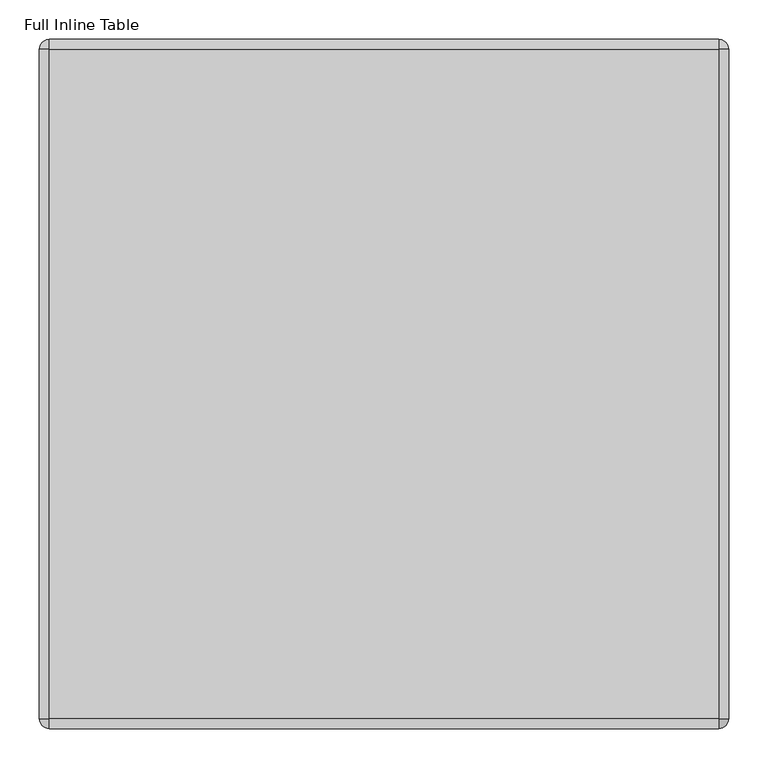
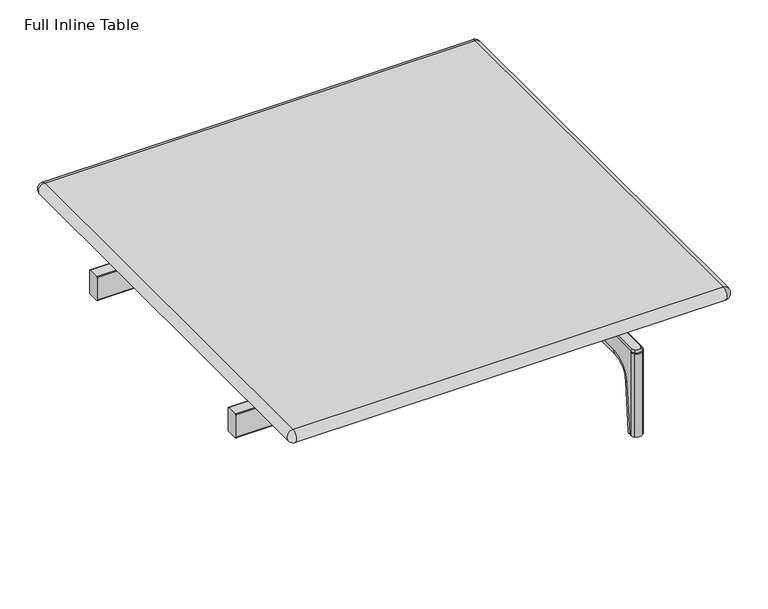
"""IFC4 building model written with IfcOpenShell, lengths in millimetres: furniture geometry, Stylex - NYC - Table : Full Inline Table."""

from ifc_helpers import new_model, si_unit, point, frame, frame_2d, origin, place, context, project, spatial, polyline, circle_curve, ellipse_curve, trimmed, segment, composite_curve, outline, extrude, source, transform, mapped, element, save
from ifc_brep_helpers import plane_surface, cylinder_surface, revolved_surface, advanced_brep


def full_inline_table_4e80720a(model_context):
    return source(origin(), model_context, "Body", "SolidModel", [
        advanced_brep(
        [(277.6202971, -378.0154739, 0.0), (293.8799209, -378.0154739, 0.0), (293.8799209, -378.0154739, 173.4104691), (277.6202971, -378.0154739, 173.4104691), (296.862609, -371.5725657, 0.0), (296.862609, -371.5725657, 173.4104691), (274.637609, -371.5725657, 0.0), (274.637609, -371.5725657, 173.4104691), (274.637609, -371.5725657, 176.5854691), (277.6202971, -378.0154739, 176.5854691), (279.6745844, -375.594621, 179.7604691), (277.812609, -371.5725657, 179.7604691), (293.8799209, -378.0154739, 176.5854691), (291.8256336, -375.594621, 179.7604691), (296.862609, -371.5725657, 176.5854691), (293.687609, -371.5725657, 179.7604691), (293.687609, -262.257522, 179.7604691), (292.100109, -262.257522, 179.7604691), (279.400109, -262.257522, 179.7604691), (277.812609, -262.257522, 179.7604691), (274.637609, 358.8290995, 101.6111748), (274.637609, 311.893435, 144.6197874), (274.637609, -311.893435, 144.6197874), (274.637609, -358.8290995, 101.6111748), (274.637609, -367.7189254, 0.0), (274.637609, -262.257522, 176.5854691), (274.637609, -252.7455757, 185.6119691), (274.637609, -251.0740792, 217.506021), (274.637609, 251.0339077, 217.506021), (274.637609, 252.7054041, 185.6119691), (274.637609, 262.2173504, 176.5854691), (274.637609, 371.5725657, 176.5854691), (274.637609, 371.5725657, 173.4104691), (274.637609, 371.5725657, 0.0), (274.637609, 367.7189254, 0.0), (296.862609, -358.8290995, 101.6111748), (296.862609, -311.893435, 144.6197874), (296.862609, 311.893435, 144.6197874), (296.862609, 358.8290995, 101.6111748), (296.862609, 367.7189254, 0.0), (296.862609, 371.5725657, 0.0), (296.862609, 371.5725657, 173.4104691), (296.862609, 371.5725657, 176.5854691), (296.862609, 262.2173504, 176.5854691), (296.862609, 252.7054041, 185.6119691), (296.862609, 251.0339077, 217.506021), (296.862609, -251.0740792, 217.506021), (296.862609, -252.7455757, 185.6119691), (296.862609, -262.257522, 176.5854691), (296.862609, -367.7189254, 0.0), (280.6630396, -343.3185004, 100.2541732), (280.6630396, -352.089604, 0.0), (290.8371784, -343.3185004, 100.2541732), (290.8371784, -352.089604, 0.0), (280.6630396, -311.893435, 129.0499403), (290.8371784, -311.893435, 129.0499403), (280.6630396, 311.893435, 129.0499403), (290.8371784, 311.893435, 129.0499403), (280.6630396, 343.3185004, 100.2541732), (290.8371784, 343.3185004, 100.2541732), (280.6630396, 352.089604, 0.0), (290.8371784, 352.089604, 0.0), (277.6202971, 378.0154739, 0.0), (293.8799209, 378.0154739, 0.0), (292.100109, -255.9162244, 185.7781358), (279.400109, -255.9162244, 185.7781358), (293.687609, -255.9162244, 185.7781358), (293.687609, -254.0870417, 220.681021), (277.812609, -254.0870417, 220.681021), (277.812609, -255.9162244, 185.7781358), (277.812609, 254.0468702, 220.681021), (293.687609, 254.0468702, 220.681021), (292.100109, 255.8760529, 185.7781358), (279.400109, 255.8760529, 185.7781358), (277.812609, 255.8760529, 185.7781358), (293.687609, 255.8760529, 185.7781358), (292.100109, 262.2173504, 179.7604691), (279.400109, 262.2173504, 179.7604691), (293.687609, 262.2173504, 179.7604691), (293.687609, 371.5725657, 179.7604691), (291.8256336, 375.594621, 179.7604691), (279.6745844, 375.594621, 179.7604691), (277.812609, 371.5725657, 179.7604691), (277.812609, 262.2173504, 179.7604691), (277.6202971, 378.0154739, 173.4104691), (293.8799209, 378.0154739, 173.4104691), (277.6202971, 378.0154739, 176.5854691), (293.8799209, 378.0154739, 176.5854691)],
        [
            (0, 1, circle_curve(frame((285.750109, -368.4349839, 0.0), z_axis=(0.0, 0.0, 1.0), x_axis=(-1.0, 0.0, 0.0)), 12.5650161)),
            (1, 2),
            (2, 3, circle_curve(frame((285.750109, -368.4349839, 173.4104691), z_axis=(0.0, 0.0, -1.0), x_axis=(-1.0, 0.0, 0.0)), 12.5650161)),
            (3, 0),
            (1, 4, circle_curve(frame((288.4125981, -371.5725657, 0.0), z_axis=(0.0, 0.0, 1.0), x_axis=(-1.0, 0.0, 0.0)), 8.4500109)),
            (4, 5),
            (5, 2, circle_curve(frame((288.4125981, -371.5725657, 173.4104691), z_axis=(0.0, 0.0, -1.0), x_axis=(-1.0, 0.0, 0.0)), 8.4500109)),
            (6, 0, circle_curve(frame((283.0876199, -371.5725657, 0.0), z_axis=(0.0, 0.0, 1.0), x_axis=(-1.0, 0.0, 0.0)), 8.4500109)),
            (3, 7, circle_curve(frame((283.0876199, -371.5725657, 173.4104691), z_axis=(0.0, 0.0, -1.0), x_axis=(-1.0, 0.0, 0.0)), 8.4500109)),
            (7, 6),
            (8, 9, circle_curve(frame((283.0876199, -371.5725657, 176.5854691), z_axis=(0.0, 0.0, 1.0), x_axis=(-1.0, 0.0, 0.0)), 8.4500109)),
            (9, 10, circle_curve(frame((279.6745844, -375.594621, 176.5854691), z_axis=(-0.7624733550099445, 0.647019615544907, 0.0), x_axis=(0.647019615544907, 0.7624733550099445, 0.0)), 3.175)),
            (10, 11, circle_curve(frame((283.0876199, -371.5725657, 179.7604691), z_axis=(0.0, 0.0, -1.0), x_axis=(-1.0, 0.0, 0.0)), 5.2750109)),
            (11, 8, circle_curve(frame((277.812609, -371.5725657, 176.5854691), z_axis=(0.0, -1.0, 0.0), x_axis=(1.0, 0.0, 0.0)), 3.175)),
            (8, 7),
            (3, 9),
            (9, 12, circle_curve(frame((285.750109, -368.4349839, 176.5854691), z_axis=(0.0, 0.0, 1.0), x_axis=(-0.6470196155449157, -0.762473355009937, 0.0)), 12.5650161)),
            (12, 13, circle_curve(frame((291.8256336, -375.594621, 176.5854691), z_axis=(-0.7624733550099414, -0.6470196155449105, 0.0), x_axis=(-0.6470196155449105, 0.7624733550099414, 0.0)), 3.175)),
            (13, 10, circle_curve(frame((285.750109, -368.4349839, 179.7604691), z_axis=(0.0, 0.0, -1.0), x_axis=(-0.6470196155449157, -0.762473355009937, 0.0)), 9.3900161)),
            (2, 12),
            (12, 14, circle_curve(frame((288.4125981, -371.5725657, 176.5854691), z_axis=(0.0, 0.0, 1.0), x_axis=(0.6470196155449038, -0.7624733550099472, 0.0)), 8.4500109)),
            (14, 15, circle_curve(frame((293.687609, -371.5725657, 176.5854691), z_axis=(0.0, -1.0, 0.0), x_axis=(-1.0, 0.0, 0.0)), 3.175)),
            (15, 13, circle_curve(frame((288.4125981, -371.5725657, 179.7604691), z_axis=(0.0, 0.0, -1.0), x_axis=(0.6470196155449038, -0.7624733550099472, 0.0)), 5.2750109)),
            (5, 14),
            (15, 16),
            (16, 17),
            (17, 18),
            (18, 19),
            (19, 11),
            (20, 21, circle_curve(frame((274.637609, 311.893435, 97.5048362), z_axis=(1.0, 0.0, 0.0), x_axis=(0.0, 0.0, 1.0)), 47.1149511)),
            (21, 22),
            (22, 23, circle_curve(frame((274.637609, -311.893435, 97.5048362), z_axis=(1.0, 0.0, 0.0), x_axis=(0.0, -0.9961946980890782, 0.08715574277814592)), 47.1149511)),
            (23, 24),
            (24, 6),
            (8, 25),
            (25, 26, circle_curve(frame((274.637609, -262.257522, 186.1104691), z_axis=(1.0, 0.0, 0.0), x_axis=(0.0, 0.9986295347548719, -0.0523359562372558)), 9.525)),
            (26, 27),
            (27, 28),
            (28, 29),
            (29, 30, circle_curve(frame((274.637609, 262.2173504, 186.1104691), z_axis=(1.0, 0.0, 0.0), x_axis=(0.0, 0.0, -1.0)), 9.525)),
            (30, 31),
            (31, 32),
            (32, 33),
            (33, 34),
            (34, 20),
            (35, 36, circle_curve(frame((296.862609, -311.893435, 97.5048362), z_axis=(-1.0, 0.0, 0.0), x_axis=(0.0, -0.9961946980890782, 0.08715574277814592)), 47.1149511)),
            (36, 37),
            (37, 38, circle_curve(frame((296.862609, 311.893435, 97.5048362), z_axis=(-1.0, 0.0, 0.0), x_axis=(0.0, 0.0, 1.0)), 47.1149511)),
            (38, 39),
            (39, 40),
            (40, 41),
            (41, 42),
            (42, 43),
            (43, 44, circle_curve(frame((296.862609, 262.2173504, 186.1104691), z_axis=(-1.0, 0.0, 0.0), x_axis=(0.0, -0.9986295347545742, -0.05233595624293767)), 9.525)),
            (44, 45),
            (45, 46),
            (46, 47),
            (47, 48, circle_curve(frame((296.862609, -262.257522, 186.1104691), z_axis=(-1.0, 0.0, 0.0), x_axis=(0.0, 0.0, -1.0)), 9.525)),
            (48, 14),
            (4, 49),
            (49, 35),
            (23, 50, circle_curve(frame((297.7667405, -358.8290995, 101.6111748), z_axis=(0.0, -0.08715574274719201, -0.9961946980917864), x_axis=(1.0, 0.0, 0.0)), 23.1291315)),
            (50, 51),
            (51, 24, ellipse_curve(frame((297.7667405, -367.7189254, 0.0), z_axis=(0.0, 0.0, 1.0), x_axis=(0.0, -1.0, 0.0)), 23.217481, 23.1291315)),
            (50, 52, circle_curve(frame((285.750109, -347.9317414, 100.6577795), z_axis=(0.0, -0.08715574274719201, -0.9961946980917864), x_axis=(-1.0, 0.0, 0.0)), 6.8791835)),
            (52, 53),
            (53, 51, ellipse_curve(frame((285.750109, -356.738156, 0.0), z_axis=(0.0, 0.0, 1.0), x_axis=(0.0, -1.0, 0.0)), 6.9054609, 6.8791835)),
            (52, 35, circle_curve(frame((273.7334775, -358.8290995, 101.6111748), z_axis=(0.0, -0.08715574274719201, -0.9961946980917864), x_axis=(-1.0, 0.0, 0.0)), 23.1291315)),
            (49, 53, ellipse_curve(frame((273.7334775, -367.7189254, 0.0), z_axis=(0.0, 0.0, 1.0), x_axis=(0.0, -1.0, 0.0)), 23.217481, 23.1291315)),
            (22, 54, circle_curve(frame((297.7667405, -311.893435, 144.6197874), z_axis=(0.0, -1.0, 0.0), x_axis=(1.0, 0.0, 0.0)), 23.1291315)),
            (54, 50, circle_curve(frame((280.6630396, -311.893435, 97.5048362), z_axis=(1.0, 0.0, 0.0), x_axis=(0.0, -0.9961946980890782, 0.08715574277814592)), 31.545104)),
            (54, 55, circle_curve(frame((285.750109, -311.893435, 133.6808031), z_axis=(0.0, -1.0, 0.0), x_axis=(-1.0, 0.0, 0.0)), 6.8791835)),
            (55, 52, circle_curve(frame((290.8371784, -311.893435, 97.5048362), z_axis=(1.0, 0.0, 0.0), x_axis=(0.0, -0.9961946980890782, 0.08715574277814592)), 31.545104)),
            (55, 36, circle_curve(frame((273.7334775, -311.893435, 144.6197874), z_axis=(0.0, -1.0, 0.0), x_axis=(-1.0, 0.0, 0.0)), 23.1291315)),
            (21, 56, circle_curve(frame((297.7667405, 311.893435, 144.6197874), z_axis=(0.0, -1.0, 0.0), x_axis=(1.0, 0.0, 0.0)), 23.1291315)),
            (56, 54),
            (56, 57, circle_curve(frame((285.750109, 311.893435, 133.6808031), z_axis=(0.0, -1.0, 0.0), x_axis=(-1.0, 0.0, 0.0)), 6.8791835)),
            (57, 55),
            (57, 37, circle_curve(frame((273.7334775, 311.893435, 144.6197874), z_axis=(0.0, -1.0, 0.0), x_axis=(-1.0, 0.0, 0.0)), 23.1291315)),
            (20, 58, circle_curve(frame((297.7667405, 358.8290995, 101.6111748), z_axis=(0.0, -0.0871557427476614, 0.9961946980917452), x_axis=(1.0, 0.0, 0.0)), 23.1291315)),
            (58, 56, circle_curve(frame((280.6630396, 311.893435, 97.5048362), z_axis=(1.0, 0.0, 0.0), x_axis=(0.0, 0.0, 1.0)), 31.545104)),
            (58, 59, circle_curve(frame((285.750109, 347.9317414, 100.6577795), z_axis=(0.0, -0.08715574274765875, 0.9961946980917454), x_axis=(-1.0, 0.0, 0.0)), 6.8791835)),
            (59, 57, circle_curve(frame((290.8371784, 311.893435, 97.5048362), z_axis=(1.0, 0.0, 0.0), x_axis=(0.0, 0.0, 1.0)), 31.545104)),
            (59, 38, circle_curve(frame((273.7334775, 358.8290995, 101.6111748), z_axis=(0.0, -0.08715574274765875, 0.9961946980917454), x_axis=(-1.0, 0.0, 0.0)), 23.1291315)),
            (34, 60, ellipse_curve(frame((297.7667405, 367.7189254, 0.0), z_axis=(0.0, 0.0, 1.0), x_axis=(0.0, -1.0, 0.0)), 23.217481, 23.1291315)),
            (60, 58),
            (60, 61, ellipse_curve(frame((285.750109, 356.738156, 0.0), z_axis=(0.0, 0.0, 1.0), x_axis=(0.0, -1.0, 0.0)), 6.9054609, 6.8791835)),
            (61, 59),
            (61, 39, ellipse_curve(frame((273.7334775, 367.7189254, 0.0), z_axis=(0.0, 0.0, 1.0), x_axis=(0.0, -1.0, 0.0)), 23.217481, 23.1291315)),
            (33, 62, circle_curve(frame((283.0876199, 371.5725657, 0.0), z_axis=(0.0, 0.0, -1.0), x_axis=(-1.0, 0.0, 0.0)), 8.4500109)),
            (62, 63, circle_curve(frame((285.750109, 368.4349839, 0.0), z_axis=(0.0, 0.0, -1.0), x_axis=(-1.0, 0.0, 0.0)), 12.5650161)),
            (63, 40, circle_curve(frame((288.4125981, 371.5725657, 0.0), z_axis=(0.0, 0.0, -1.0), x_axis=(-1.0, 0.0, 0.0)), 8.4500109)),
            (17, 64, circle_curve(frame((292.100109, -262.257522, 186.1104691), z_axis=(1.0, 0.0, 0.0), x_axis=(0.0, -1.0, 0.0)), 6.35)),
            (64, 65),
            (65, 18, circle_curve(frame((279.400109, -262.257522, 186.1104691), z_axis=(-1.0, 0.0, 0.0), x_axis=(0.0, -1.0, 0.0)), 6.35)),
            (64, 66),
            (66, 67),
            (67, 68),
            (68, 69),
            (69, 65),
            (70, 68),
            (67, 71),
            (71, 70),
            (72, 73),
            (73, 74),
            (74, 70),
            (71, 75),
            (75, 72),
            (72, 76, circle_curve(frame((292.100109, 262.2173504, 186.1104691), z_axis=(1.0, 0.0, 0.0), x_axis=(0.0, -1.0, 0.0)), 6.35)),
            (76, 77),
            (77, 73, circle_curve(frame((279.400109, 262.2173504, 186.1104691), z_axis=(-1.0, 0.0, 0.0), x_axis=(0.0, -1.0, 0.0)), 6.35)),
            (76, 78),
            (78, 79),
            (79, 80, circle_curve(frame((288.4125981, 371.5725657, 179.7604691), z_axis=(0.0, 0.0, 1.0), x_axis=(0.6470196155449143, 0.7624733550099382, 0.0)), 5.2750109)),
            (80, 81, circle_curve(frame((285.750109, 368.4349839, 179.7604691), z_axis=(0.0, 0.0, 1.0), x_axis=(-0.6470196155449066, 0.7624733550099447, 0.0)), 9.3900161)),
            (81, 82, circle_curve(frame((283.0876199, 371.5725657, 179.7604691), z_axis=(0.0, 0.0, 1.0), x_axis=(-1.0, 0.0, 0.0)), 5.2750109)),
            (82, 83),
            (83, 77),
            (62, 84),
            (84, 85, circle_curve(frame((285.750109, 368.4349839, 173.4104691), z_axis=(0.0, 0.0, -1.0), x_axis=(-1.0, 0.0, 0.0)), 12.5650161)),
            (85, 63),
            (85, 41, circle_curve(frame((288.4125981, 371.5725657, 173.4104691), z_axis=(0.0, 0.0, -1.0), x_axis=(-1.0, 0.0, 0.0)), 8.4500109)),
            (32, 84, circle_curve(frame((283.0876199, 371.5725657, 173.4104691), z_axis=(0.0, 0.0, -1.0), x_axis=(-1.0, 0.0, 0.0)), 8.4500109)),
            (86, 31, circle_curve(frame((283.0876199, 371.5725657, 176.5854691), z_axis=(0.0, 0.0, 1.0), x_axis=(-1.0, 0.0, 0.0)), 8.4500109)),
            (31, 82, circle_curve(frame((277.812609, 371.5725657, 176.5854691), z_axis=(0.0, 1.0, 0.0), x_axis=(-1.0, 0.0, 0.0)), 3.175)),
            (81, 86, circle_curve(frame((279.6745844, 375.594621, 176.5854691), z_axis=(-0.7624733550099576, -0.6470196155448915, 0.0), x_axis=(-0.6470196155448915, 0.7624733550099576, 0.0)), 3.175)),
            (86, 84),
            (80, 87, circle_curve(frame((291.8256336, 375.594621, 176.5854691), z_axis=(-0.762473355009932, 0.6470196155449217, 0.0), x_axis=(0.6470196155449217, 0.762473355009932, 0.0)), 3.175)),
            (87, 86, circle_curve(frame((285.750109, 368.4349839, 176.5854691), z_axis=(0.0, 0.0, 1.0), x_axis=(-0.6470196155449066, 0.7624733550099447, 0.0)), 12.5650161)),
            (87, 85),
            (79, 42, circle_curve(frame((293.687609, 371.5725657, 176.5854691), z_axis=(0.0, 1.0, 0.0), x_axis=(1.0, 0.0, 0.0)), 3.175)),
            (42, 87, circle_curve(frame((288.4125981, 371.5725657, 176.5854691), z_axis=(0.0, 0.0, 1.0), x_axis=(0.6470196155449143, 0.7624733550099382, 0.0)), 8.4500109)),
            (30, 83, circle_curve(frame((277.812609, 262.2173504, 176.5854691), z_axis=(0.0, 1.0, 0.0), x_axis=(0.0, 0.0, 1.0)), 3.175)),
            (29, 74, circle_curve(frame((277.812609, 252.7054041, 185.6119691), z_axis=(0.0, 0.05233595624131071, -0.9986295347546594), x_axis=(0.0, 0.9986295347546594, 0.05233595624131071)), 3.175)),
            (74, 83, circle_curve(frame((277.812609, 262.2173504, 186.1104691), z_axis=(1.0, 0.0, 0.0), x_axis=(0.0, 0.0, -1.0)), 6.35)),
            (28, 70, ellipse_curve(frame((277.812609, 251.0339077, 217.506021), z_axis=(0.0, 0.7253743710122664, -0.6883545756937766), x_axis=(0.0, -0.6883545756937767, -0.725374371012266)), 4.3770502, 3.175)),
            (27, 68, ellipse_curve(frame((277.812609, -251.0740792, 217.506021), z_axis=(0.0, 0.7253743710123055, 0.6883545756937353), x_axis=(0.0, 0.688354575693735, -0.7253743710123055)), 4.3770502, 3.175)),
            (19, 25, circle_curve(frame((277.812609, -262.257522, 176.5854691), z_axis=(0.0, -1.0, 0.0), x_axis=(0.0, 0.0, 1.0)), 3.175)),
            (48, 16, circle_curve(frame((293.687609, -262.257522, 176.5854691), z_axis=(0.0, -1.0, 0.0), x_axis=(0.0, 0.0, 1.0)), 3.175)),
            (45, 71, ellipse_curve(frame((293.687609, 251.0339077, 217.506021), z_axis=(0.0, -0.7253743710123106, 0.6883545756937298), x_axis=(0.0, -0.6883545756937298, -0.7253743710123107)), 4.3770502, 3.175)),
            (67, 46, ellipse_curve(frame((293.687609, -251.0740792, 217.506021), z_axis=(0.0, 0.7253743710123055, 0.688354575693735), x_axis=(0.0, -0.6883545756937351, 0.7253743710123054)), 4.3770502, 3.175)),
            (78, 43, circle_curve(frame((293.687609, 262.2173504, 176.5854691), z_axis=(0.0, 1.0, 0.0), x_axis=(0.0, 0.0, 1.0)), 3.175)),
            (26, 69, circle_curve(frame((277.812609, -252.7455757, 185.6119691), z_axis=(0.0, 0.05233595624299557, 0.9986295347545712), x_axis=(0.0, -0.9986295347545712, 0.05233595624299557)), 3.175)),
            (19, 69, circle_curve(frame((277.812609, -262.257522, 186.1104691), z_axis=(1.0, 0.0, 0.0), x_axis=(0.0, 0.9986295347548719, -0.0523359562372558)), 6.35)),
            (16, 66, circle_curve(frame((293.687609, -262.257522, 186.1104691), z_axis=(1.0, 0.0, 0.0), x_axis=(0.0, 0.0, -1.0)), 6.35)),
            (47, 66, circle_curve(frame((293.687609, -252.7455757, 185.6119691), z_axis=(0.0, -0.05233595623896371, -0.9986295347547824), x_axis=(0.0, -0.9986295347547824, 0.05233595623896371)), 3.175)),
            (44, 75, circle_curve(frame((293.687609, 252.7054041, 185.6119691), z_axis=(0.0, -0.052335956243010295, 0.9986295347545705), x_axis=(0.0, 0.9986295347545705, 0.052335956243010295)), 3.175)),
            (75, 78, circle_curve(frame((293.687609, 262.2173504, 186.1104691), z_axis=(1.0, 0.0, 0.0), x_axis=(0.0, -0.9986295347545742, -0.05233595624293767)), 6.35)),
        ],
        [
            cylinder_surface(frame((285.750109, -368.4349839, 0.0), z_axis=(0.0, 0.0, 1.0), x_axis=(-1.0, 0.0, 0.0)), 12.5650161),
            cylinder_surface(frame((288.4125981, -371.5725657, 0.0), z_axis=(0.0, 0.0, 1.0), x_axis=(-1.0, 0.0, 0.0)), 8.4500109),
            cylinder_surface(frame((283.0876199, -371.5725657, 0.0), z_axis=(0.0, 0.0, 1.0), x_axis=(-1.0, 0.0, 0.0)), 8.4500109),
            revolved_surface(trimmed(ellipse_curve(frame((277.812609, -371.5725657, 176.5854691), z_axis=(0.0, 1.0, 0.0), x_axis=(1.0, 0.0, 0.0)), 3.175, 3.175), [point((274.637609, -371.5725657, 176.5854691))], [point((277.812609, -371.5725657, 179.7604691))], True, "CARTESIAN"), (283.0876199, -371.5725657, 0.0), (0.0, 0.0, 1.0)),
            revolved_surface(trimmed(ellipse_curve(frame((279.6745844, -375.594621, 176.5854691), z_axis=(-0.7624733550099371, 0.6470196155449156, 0.0), x_axis=(0.6470196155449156, 0.7624733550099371, 0.0)), 3.175, 3.175), [point((277.6202971, -378.0154739, 176.5854691))], [point((279.6745844, -375.594621, 179.7604691))], True, "CARTESIAN"), (285.750109, -368.4349839, 0.0), (0.0, 0.0, 1.0)),
            cylinder_surface(frame((285.750109, -368.4349839, 0.0), z_axis=(0.0, 0.0, 1.0), x_axis=(-0.6470196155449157, -0.762473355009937, 0.0)), 12.5650161),
            revolved_surface(trimmed(ellipse_curve(frame((291.8256336, -375.594621, 176.5854691), z_axis=(-0.762473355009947, -0.6470196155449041, 0.0), x_axis=(-0.6470196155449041, 0.762473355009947, 0.0)), 3.175, 3.175), [point((293.8799209, -378.0154739, 176.5854691))], [point((291.8256336, -375.594621, 179.7604691))], True, "CARTESIAN"), (288.4125981, -371.5725657, 0.0), (0.0, 0.0, 1.0)),
            cylinder_surface(frame((288.4125981, -371.5725657, 0.0), z_axis=(0.0, 0.0, 1.0), x_axis=(0.6470196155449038, -0.7624733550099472, 0.0)), 8.4500109),
            plane_surface(frame((292.100109, -358.3895248, 179.7604691), z_axis=(0.0, 0.0, 1.0), x_axis=(0.0, 1.0, 0.0))),
            plane_surface(frame((274.637609, -372.2795024, -8.0803238), z_axis=(-1.0, 1.165009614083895e-12, 0.0), x_axis=(0.0, 0.08715574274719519, 0.9961946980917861))),
            plane_surface(frame((296.862609, -368.4551348, -8.4149126), z_axis=(1.0, 0.0, 0.0), x_axis=(0.0, 0.08715574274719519, 0.9961946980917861))),
            cylinder_surface(frame((297.7667405, -368.4551348, -8.4149126), z_axis=(0.0, -0.08715574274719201, -0.9961946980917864), x_axis=(1.0, 0.0, 0.0)), 23.1291315),
            cylinder_surface(frame((285.750109, -357.5577767, -9.3683079), z_axis=(0.0, -0.08715574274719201, -0.9961946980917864), x_axis=(-1.0, 0.0, 0.0)), 6.8791835),
            cylinder_surface(frame((273.7334775, -368.4551348, -8.4149126), z_axis=(0.0, -0.08715574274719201, -0.9961946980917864), x_axis=(-1.0, 0.0, 0.0)), 23.1291315),
            revolved_surface(trimmed(ellipse_curve(frame((297.7667405, -358.8290995, 101.6111748), z_axis=(0.0, -0.08715574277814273, -0.9961946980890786), x_axis=(1.0, 0.0, 0.0)), 23.1291315, 23.1291315), [point((274.637609, -358.8290995, 101.6111748))], [point((280.6630396, -343.3185004, 100.2541732))], True, "CARTESIAN"), (285.750109, -311.893435, 97.5048362), (-1.0, 0.0, 0.0)),
            revolved_surface(trimmed(ellipse_curve(frame((285.750109, -347.9317414, 100.6577795), z_axis=(0.0, -0.08715574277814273, -0.9961946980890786), x_axis=(-1.0, 0.0, 0.0)), 6.8791835, 6.8791835), [point((280.6630396, -343.3185004, 100.2541732))], [point((290.8371784, -343.3185004, 100.2541732))], True, "CARTESIAN"), (285.750109, -311.893435, 97.5048362), (-1.0, 0.0, 0.0)),
            revolved_surface(trimmed(ellipse_curve(frame((273.7334775, -358.8290995, 101.6111748), z_axis=(0.0, -0.08715574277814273, -0.9961946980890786), x_axis=(-1.0, 0.0, 0.0)), 23.1291315, 23.1291315), [point((290.8371784, -343.3185004, 100.2541732))], [point((296.862609, -358.8290995, 101.6111748))], True, "CARTESIAN"), (285.750109, -311.893435, 97.5048362), (-1.0, 0.0, 0.0)),
            cylinder_surface(frame((297.7667405, -311.893435, 144.6197874), z_axis=(0.0, -1.0, 0.0), x_axis=(1.0, 0.0, 0.0)), 23.1291315),
            cylinder_surface(frame((285.750109, -311.893435, 133.6808031), z_axis=(0.0, -1.0, 0.0), x_axis=(-1.0, 0.0, 0.0)), 6.8791835),
            cylinder_surface(frame((273.7334775, -311.893435, 144.6197874), z_axis=(0.0, -1.0, 0.0), x_axis=(-1.0, 0.0, 0.0)), 23.1291315),
            revolved_surface(trimmed(ellipse_curve(frame((297.7667405, 311.893435, 144.6197874), z_axis=(0.0, -1.0, 0.0), x_axis=(1.0, 0.0, 0.0)), 23.1291315, 23.1291315), [point((274.637609, 311.893435, 144.6197874))], [point((280.6630396, 311.893435, 129.0499403))], True, "CARTESIAN"), (285.750109, 311.893435, 97.5048362), (-1.0, 0.0, 0.0)),
            revolved_surface(trimmed(ellipse_curve(frame((285.750109, 311.893435, 133.6808031), z_axis=(0.0, -1.0, 0.0), x_axis=(-1.0, 0.0, 0.0)), 6.8791835, 6.8791835), [point((280.6630396, 311.893435, 129.0499403))], [point((290.8371784, 311.893435, 129.0499403))], True, "CARTESIAN"), (285.750109, 311.893435, 97.5048362), (-1.0, 0.0, 0.0)),
            revolved_surface(trimmed(ellipse_curve(frame((273.7334775, 311.893435, 144.6197874), z_axis=(0.0, -1.0, 0.0), x_axis=(-1.0, 0.0, 0.0)), 23.1291315, 23.1291315), [point((290.8371784, 311.893435, 129.0499403))], [point((296.862609, 311.893435, 144.6197874))], True, "CARTESIAN"), (285.750109, 311.893435, 97.5048362), (-1.0, 0.0, 0.0)),
            cylinder_surface(frame((297.7667405, 358.8290995, 101.6111748), z_axis=(0.0, -0.0871557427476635, 0.9961946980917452), x_axis=(1.0, 0.0, 0.0)), 23.1291315),
            cylinder_surface(frame((285.750109, 347.9317414, 100.6577795), z_axis=(0.0, -0.0871557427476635, 0.9961946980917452), x_axis=(-1.0, 0.0, 0.0)), 6.8791835),
            cylinder_surface(frame((273.7334775, 358.8290995, 101.6111748), z_axis=(0.0, -0.0871557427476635, 0.9961946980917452), x_axis=(-1.0, 0.0, 0.0)), 23.1291315),
            plane_surface(frame((258.7372881, -410.528822, 0.0), z_axis=(0.0, 0.0, -1.0), x_axis=(1.0, 0.0, 0.0))),
            revolved_surface(polyline([(292.100109, -268.607522, 186.1104691), (279.400109, -268.607522, 186.1104691)]), (292.100109, -262.257522, 186.1104691), (1.0, 0.0, 0.0)),
            plane_surface(frame((279.400109, -255.9162244, 185.7781358), z_axis=(0.0, -0.9986295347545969, 0.052335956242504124), x_axis=(1.0, 0.0, 0.0))),
            plane_surface(frame((279.400109, -254.0870417, 220.681021), z_axis=(0.0, 0.0, 1.0), x_axis=(1.0, 0.0, 0.0))),
            plane_surface(frame((279.400109, 254.0468702, 220.681021), z_axis=(0.0, 0.9986295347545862, 0.05233595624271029), x_axis=(1.0, 0.0, 0.0))),
            revolved_surface(polyline([(292.100109, 255.8673504, 186.1104691), (279.400109, 255.8673504, 186.1104691)]), (292.100109, 262.2173504, 186.1104691), (1.0, 0.0, 0.0)),
            plane_surface(frame((279.400109, 262.2173504, 179.7604691), z_axis=(0.0, 0.0, 1.0), x_axis=(1.0, 0.0, 0.0))),
            cylinder_surface(frame((285.750109, 368.4349839, 0.0), z_axis=(0.0, 0.0, 1.0), x_axis=(-1.0, 0.0, 0.0)), 12.5650161),
            cylinder_surface(frame((288.4125981, 371.5725657, 0.0), z_axis=(0.0, 0.0, 1.0), x_axis=(-1.0, 0.0, 0.0)), 8.4500109),
            cylinder_surface(frame((283.0876199, 371.5725657, 0.0), z_axis=(0.0, 0.0, 1.0), x_axis=(-1.0, 0.0, 0.0)), 8.4500109),
            revolved_surface(trimmed(ellipse_curve(frame((277.812609, 371.5725657, 176.5854691), z_axis=(0.0, -1.0, 0.0), x_axis=(-1.0, 0.0, 0.0)), 3.175, 3.175), [point((277.812609, 371.5725657, 179.7604691))], [point((274.637609, 371.5725657, 176.5854691))], True, "CARTESIAN"), (283.0876199, 371.5725657, 0.0), (0.0, 0.0, -1.0)),
            cylinder_surface(frame((283.0876199, 371.5725657, 0.0), z_axis=(0.0, 0.0, -1.0), x_axis=(-1.0, 0.0, 0.0)), 8.4500109),
            revolved_surface(trimmed(ellipse_curve(frame((279.6745844, 375.594621, 176.5854691), z_axis=(-0.7624733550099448, -0.6470196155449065, 0.0), x_axis=(-0.6470196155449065, 0.7624733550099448, 0.0)), 3.175, 3.175), [point((279.6745844, 375.594621, 179.7604691))], [point((277.6202971, 378.0154739, 176.5854691))], True, "CARTESIAN"), (285.750109, 368.4349839, 0.0), (0.0, 0.0, -1.0)),
            cylinder_surface(frame((285.750109, 368.4349839, 0.0), z_axis=(0.0, 0.0, -1.0), x_axis=(-0.6470196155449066, 0.7624733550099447, 0.0)), 12.5650161),
            revolved_surface(trimmed(ellipse_curve(frame((291.8256336, 375.594621, 176.5854691), z_axis=(-0.7624733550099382, 0.6470196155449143, 0.0), x_axis=(0.6470196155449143, 0.7624733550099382, 0.0)), 3.175, 3.175), [point((291.8256336, 375.594621, 179.7604691))], [point((293.8799209, 378.0154739, 176.5854691))], True, "CARTESIAN"), (288.4125981, 371.5725657, 0.0), (0.0, 0.0, -1.0)),
            cylinder_surface(frame((288.4125981, 371.5725657, 0.0), z_axis=(0.0, 0.0, -1.0), x_axis=(0.6470196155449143, 0.7624733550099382, 0.0)), 8.4500109),
            cylinder_surface(frame((277.812609, 371.5725657, 176.5854691), z_axis=(0.0, 1.0, 0.0), x_axis=(0.0, 0.0, 1.0)), 3.175),
            revolved_surface(trimmed(ellipse_curve(frame((277.812609, 262.2173504, 176.5854691), z_axis=(0.0, 1.0, 0.0), x_axis=(0.0, 0.0, 1.0)), 3.175, 3.175), [point((274.637609, 262.2173504, 176.5854691))], [point((277.812609, 262.2173504, 179.7604691))], True, "CARTESIAN"), (279.400109, 262.2173504, 186.1104691), (-1.0, 0.0, 0.0)),
            revolved_surface(polyline([(277.812609, 262.2173504, 179.7604691), (279.400109, 262.2173504, 179.7604691)]), (279.400109, 262.2173504, 186.1104691), (-1.0, 0.0, 0.0)),
            cylinder_surface(frame((277.812609, 252.7054041, 185.6119691), z_axis=(0.0, 0.052335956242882, -0.9986295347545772), x_axis=(0.0, 0.9986295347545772, 0.052335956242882)), 3.175),
            cylinder_surface(frame((277.812609, 248.0209452, 217.506021), z_axis=(0.0, 1.0, 0.0), x_axis=(0.0, 0.0, 1.0)), 3.175),
            cylinder_surface(frame((277.812609, -262.257522, 176.5854691), z_axis=(0.0, 1.0, 0.0), x_axis=(0.0, 0.0, 1.0)), 3.175),
            cylinder_surface(frame((293.687609, -371.5725657, 176.5854691), z_axis=(0.0, -1.0, 0.0), x_axis=(0.0, 0.0, 1.0)), 3.175),
            cylinder_surface(frame((293.687609, -248.0611167, 217.506021), z_axis=(0.0, -1.0, 0.0), x_axis=(0.0, 0.0, 1.0)), 3.175),
            cylinder_surface(frame((293.687609, 262.2173504, 176.5854691), z_axis=(0.0, -1.0, 0.0), x_axis=(0.0, 0.0, 1.0)), 3.175),
            cylinder_surface(frame((277.812609, -251.2317655, 214.4971877), z_axis=(0.0, 0.05233595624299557, 0.9986295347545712), x_axis=(0.0, -0.9986295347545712, 0.05233595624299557)), 3.175),
            revolved_surface(trimmed(ellipse_curve(frame((277.812609, -252.7455757, 185.6119691), z_axis=(0.0, 0.05233595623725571, 0.9986295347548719), x_axis=(0.0, -0.9986295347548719, 0.05233595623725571)), 3.175, 3.175), [point((274.637609, -252.7455757, 185.6119691))], [point((277.812609, -255.9162244, 185.7781358))], True, "CARTESIAN"), (279.400109, -262.257522, 186.1104691), (-1.0, 0.0, 0.0)),
            revolved_surface(polyline([(277.812609, -255.91622445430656, 185.77813577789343), (279.400109, -255.91622445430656, 185.77813577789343)]), (279.400109, -262.257522, 186.1104691), (-1.0, 0.0, 0.0)),
            revolved_surface(polyline([(293.687609, -262.257522, 179.7604691), (292.100109, -262.257522, 179.7604691)]), (292.100109, -262.257522, 186.1104691), (1.0, 0.0, 0.0)),
            revolved_surface(trimmed(ellipse_curve(frame((293.687609, -262.257522, 176.5854691), z_axis=(0.0, -1.0, 0.0), x_axis=(0.0, 0.0, 1.0)), 3.175, 3.175), [point((296.862609, -262.257522, 176.5854691))], [point((293.687609, -262.257522, 179.7604691))], True, "CARTESIAN"), (292.100109, -262.257522, 186.1104691), (1.0, 0.0, 0.0)),
            cylinder_surface(frame((293.687609, -252.7455757, 185.6119691), z_axis=(0.0, -0.052335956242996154, -0.9986295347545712), x_axis=(0.0, -0.9986295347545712, 0.052335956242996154)), 3.175),
            cylinder_surface(frame((293.687609, 251.191594, 214.4971877), z_axis=(0.0, -0.052335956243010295, 0.9986295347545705), x_axis=(0.0, 0.9986295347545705, 0.052335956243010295)), 3.175),
            revolved_surface(polyline([(293.687609, 255.87605285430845, 185.77813577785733), (292.100109, 255.87605285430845, 185.77813577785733)]), (292.100109, 262.2173504, 186.1104691), (1.0, 0.0, 0.0)),
            revolved_surface(trimmed(ellipse_curve(frame((293.687609, 252.7054041, 185.6119691), z_axis=(0.0, -0.05233595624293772, 0.9986295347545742), x_axis=(0.0, 0.9986295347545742, 0.05233595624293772)), 3.175, 3.175), [point((296.862609, 252.7054041, 185.6119691))], [point((293.687609, 255.8760529, 185.7781358))], True, "CARTESIAN"), (292.100109, 262.2173504, 186.1104691), (1.0, 0.0, 0.0)),
        ],
        [
            (0, [[1, 2, 3, 4]]),
            (1, [[5, 6, 7, -2]]),
            (2, [[8, -4, 9, 10]]),
            (3, [[11, 12, 13, 14]]),
            (2, [[-11, 15, -9, 16]]),
            (4, [[-12, 17, 18, 19]]),
            (5, [[-16, -3, 20, -17]]),
            (6, [[-18, 21, 22, 23]]),
            (7, [[-20, -7, 24, -21]]),
            (8, [[-13, -19, -23, 25, 26, 27, 28, 29]]),
            (9, [[30, 31, 32, 33, 34, -10, -15, 35, 36, 37, 38, 39, 40, 41, 42, 43, 44, 45]]),
            (10, [[46, 47, 48, 49, 50, 51, 52, 53, 54, 55, 56, 57, 58, 59, -24, -6, 60, 61]]),
            (11, [[62, 63, 64, -33]]),
            (12, [[65, 66, 67, -63]]),
            (13, [[68, -61, 69, -66]]),
            (14, [[-32, 70, 71, -62]]),
            (15, [[-65, -71, 72, 73]]),
            (16, [[-46, -68, -73, 74]]),
            (17, [[-31, 75, 76, -70]]),
            (18, [[-72, -76, 77, 78]]),
            (19, [[-47, -74, -78, 79]]),
            (20, [[-30, 80, 81, -75]]),
            (21, [[-77, -81, 82, 83]]),
            (22, [[-48, -79, -83, 84]]),
            (23, [[-80, -45, 85, 86]]),
            (24, [[-82, -86, 87, 88]]),
            (25, [[-84, -88, 89, -49]]),
            (26, [[-34, -64, -67, -69, -60, -5, -1, -8]]),
            (26, [[-44, 90, 91, 92, -50, -89, -87, -85]]),
            (27, [[-27, 93, 94, 95]]),
            (28, [[-94, 96, 97, 98, 99, 100]]),
            (29, [[101, -98, 102, 103]]),
            (30, [[104, 105, 106, -103, 107, 108]]),
            (31, [[-104, 109, 110, 111]]),
            (32, [[-110, 112, 113, 114, 115, 116, 117, 118]]),
            (33, [[-91, 119, 120, 121]]),
            (34, [[-92, -121, 122, -51]]),
            (35, [[-90, -43, 123, -119]]),
            (36, [[124, 125, -116, 126]]),
            (37, [[-124, 127, -123, -42]]),
            (38, [[-126, -115, 128, 129]]),
            (39, [[-127, -129, 130, -120]]),
            (40, [[-128, -114, 131, 132]]),
            (41, [[-130, -132, -52, -122]]),
            (42, [[-41, 133, -117, -125]]),
            (43, [[-133, -40, 134, 135]]),
            (44, [[-118, -135, -105, -111]]),
            (45, [[-39, 136, -106, -134]]),
            (46, [[-38, 137, -101, -136]]),
            (47, [[-35, -14, -29, 138]]),
            (48, [[-25, -22, -59, 139]]),
            (49, [[-56, 140, -102, 141]]),
            (50, [[-53, -131, -113, 142]]),
            (51, [[-37, 143, -99, -137]]),
            (52, [[-36, -138, 144, -143]]),
            (53, [[-28, -95, -100, -144]]),
            (54, [[-26, 145, -96, -93]]),
            (55, [[-58, 146, -145, -139]]),
            (56, [[-57, -141, -97, -146]]),
            (57, [[-55, 147, -107, -140]]),
            (58, [[-112, -109, -108, 148]]),
            (59, [[-54, -142, -148, -147]]),
        ],
    ),
        extrude(outline(composite_curve([segment(trimmed(circle_curve(frame_2d((-237.331359, 237.3313838)), 9.525), [point((-237.331359, 246.8563838))], [point((-237.331359, 227.8063838))], False, "CARTESIAN"), True, "CONTINUOUS"), segment(trimmed(circle_curve(frame_2d((-237.331359, 237.3313838)), 9.525), [point((-237.331359, 227.8063838))], [point((-237.331359, 246.8563838))], False, "CARTESIAN"), True, "CONTINUOUS")], self_intersect=False)), frame((0.0, 0.0, 220.681021), z_axis=(0.0, 0.0, 1.0), x_axis=(1.0, 0.0, 0.0)), (0.0, 0.0, 1.0), 42.8439913),
        extrude(outline(composite_curve([segment(trimmed(circle_curve(frame_2d((237.331359, 237.3313838)), 9.525), [point((237.331359, 246.8563838))], [point((237.331359, 227.8063838))], False, "CARTESIAN"), True, "CONTINUOUS"), segment(trimmed(circle_curve(frame_2d((237.331359, 237.3313838)), 9.525), [point((237.331359, 227.8063838))], [point((237.331359, 246.8563838))], False, "CARTESIAN"), True, "CONTINUOUS")], self_intersect=False)), frame((0.0, 0.0, 220.681021), z_axis=(0.0, 0.0, 1.0), x_axis=(1.0, 0.0, 0.0)), (0.0, 0.0, 1.0), 42.8439913),
        extrude(outline(composite_curve([segment(trimmed(circle_curve(frame_2d((-237.331359, -237.3313838)), 9.525), [point((-237.331359, -227.8063838))], [point((-237.331359, -246.8563838))], False, "CARTESIAN"), True, "CONTINUOUS"), segment(trimmed(circle_curve(frame_2d((-237.331359, -237.3313838)), 9.525), [point((-237.331359, -246.8563838))], [point((-237.331359, -227.8063838))], False, "CARTESIAN"), True, "CONTINUOUS")], self_intersect=False)), frame((0.0, 0.0, 220.681021), z_axis=(0.0, 0.0, 1.0), x_axis=(1.0, 0.0, 0.0)), (0.0, 0.0, 1.0), 42.8439913),
        extrude(outline(composite_curve([segment(trimmed(circle_curve(frame_2d((237.331359, -237.3313838)), 9.525), [point((237.331359, -227.8063838))], [point((237.331359, -246.8563838))], False, "CARTESIAN"), True, "CONTINUOUS"), segment(trimmed(circle_curve(frame_2d((237.331359, -237.3313838)), 9.525), [point((237.331359, -246.8563838))], [point((237.331359, -227.8063838))], False, "CARTESIAN"), True, "CONTINUOUS")], self_intersect=False)), frame((0.0, 0.0, 220.681021), z_axis=(0.0, 0.0, 1.0), x_axis=(1.0, 0.0, 0.0)), (0.0, 0.0, 1.0), 42.8439913),
        extrude(outline(polyline([(349.2499831, 349.2500169), (349.2499831, -349.2499831), (-349.2499831, -349.2499831), (-349.2499831, 349.2500169), (349.2499831, 349.2500169)])), frame((0.0, 0.0, 263.5250123), z_axis=(0.0, 0.0, 1.0), x_axis=(1.0, 0.0, 0.0)), (0.0, 0.0, 1.0), 2.4401501),
        advanced_brep(
        [(425.4498999, 425.4498999, 265.9651624), (-425.4498999, 425.4498999, 265.9651624), (-425.4498999, 425.4498999, 291.3651624), (425.4498999, 425.4498999, 291.3651624), (425.4498999, -425.4498999, 291.3651624), (-425.4498999, -425.4498999, 291.3651624), (-425.4498999, -425.4498999, 265.9651624), (425.4498999, -425.4498999, 265.9651624)],
        [
            (0, 1),
            (1, 2, circle_curve(frame((-425.4498999, 425.4498999, 278.6651624), z_axis=(1.0, 0.0, 0.0), x_axis=(0.0, 1.0, 0.0)), 12.7)),
            (2, 3),
            (3, 0, circle_curve(frame((425.4498999, 425.4498999, 278.6651624), z_axis=(-1.0, 0.0, 0.0), x_axis=(0.0, 1.0, 0.0)), 12.7)),
            (4, 5),
            (5, 6, circle_curve(frame((-425.4498999, -425.4498999, 278.6651624), z_axis=(1.0, 0.0, 0.0), x_axis=(0.0, 1.0, 0.0)), 12.7)),
            (6, 7),
            (7, 4, circle_curve(frame((425.4498999, -425.4498999, 278.6651624), z_axis=(-1.0, 0.0, 0.0), x_axis=(0.0, 1.0, 0.0)), 12.7)),
            (2, 5),
            (4, 3),
            (0, 7),
            (6, 1),
            (2, 1, circle_curve(frame((-425.4498999, 425.4498999, 278.6651624), z_axis=(0.0, -1.0, 0.0), x_axis=(0.0, 0.0, 1.0)), 12.7)),
            (6, 5, circle_curve(frame((-425.4498999, -425.4498999, 278.6651624), z_axis=(0.0, 1.0, 0.0), x_axis=(0.0, 0.0, 1.0)), 12.7)),
            (4, 7, circle_curve(frame((425.4498999, -425.4498999, 278.6651624), z_axis=(0.0, 1.0, 0.0), x_axis=(0.0, 0.0, 1.0)), 12.7)),
            (0, 3, circle_curve(frame((425.4498999, 425.4498999, 278.6651624), z_axis=(0.0, -1.0, 0.0), x_axis=(0.0, 0.0, 1.0)), 12.7)),
        ],
        [
            cylinder_surface(frame((-425.4498999, 425.4498999, 278.6651624), z_axis=(1.0, 0.0, 0.0), x_axis=(0.0, 1.0, 0.0)), 12.7),
            cylinder_surface(frame((-425.4498999, -425.4498999, 278.6651624), z_axis=(1.0, 0.0, 0.0), x_axis=(0.0, 1.0, 0.0)), 12.7),
            plane_surface(frame((425.4498999, 425.4498999, 291.3651624), z_axis=(0.0, 0.0, 1.0), x_axis=(-1.0, 0.0, 0.0))),
            plane_surface(frame((425.4498999, -425.4498999, 265.9651624), z_axis=(0.0, 0.0, -1.0), x_axis=(-1.0, 0.0, 0.0))),
            cylinder_surface(frame((-425.4498999, -425.4498999, 278.6651624), z_axis=(0.0, -1.0, 0.0), x_axis=(0.0, 0.0, 1.0)), 12.7),
            revolved_surface(trimmed(ellipse_curve(frame((-425.4498999, -425.4498999, 278.6651624), z_axis=(0.0, -1.0, 0.0), x_axis=(1.0, 0.0, 0.0)), 12.7, 12.7), [point((-425.4498999, -425.4498999, 291.3651624))], [point((-425.4498999, -425.4498999, 265.9651624))], True, "CARTESIAN"), (-425.4498999, -425.4498999, 291.3651624), (0.0, 0.0, -1.0)),
            cylinder_surface(frame((425.4498999, 425.4498999, 278.6651624), z_axis=(0.0, -1.0, 0.0), x_axis=(0.0, 0.0, 1.0)), 12.7),
            revolved_surface(trimmed(ellipse_curve(frame((425.4498999, -425.4498999, 278.6651624), z_axis=(0.0, -1.0, 0.0), x_axis=(1.0, 0.0, 0.0)), 12.7, 12.7), [point((425.4498999, -425.4498999, 265.9651624))], [point((425.4498999, -425.4498999, 291.3651624))], True, "CARTESIAN"), (425.4498999, -425.4498999, 291.3651624), (0.0, 0.0, 1.0)),
            revolved_surface(trimmed(ellipse_curve(frame((425.4498999, 425.4498999, 278.6651624), z_axis=(0.0, 1.0, 0.0), x_axis=(1.0, 0.0, 0.0)), 12.7, 12.7), [point((425.4498999, 425.4498999, 291.3651624))], [point((425.4498999, 425.4498999, 265.9651624))], True, "CARTESIAN"), (425.4498999, 425.4498999, 291.3651624), (0.0, 0.0, -1.0)),
            revolved_surface(trimmed(ellipse_curve(frame((-425.4498999, 425.4498999, 278.6651624), z_axis=(0.0, 1.0, 0.0), x_axis=(1.0, 0.0, 0.0)), 12.7, 12.7), [point((-425.4498999, 425.4498999, 265.9651624))], [point((-425.4498999, 425.4498999, 291.3651624))], True, "CARTESIAN"), (-425.4498999, 425.4498999, 291.3651624), (0.0, 0.0, 1.0)),
        ],
        [
            (0, [[1, 2, 3, 4]]),
            (1, [[5, 6, 7, 8]]),
            (2, [[-3, 9, -5, 10]]),
            (3, [[-1, 11, -7, 12]]),
            (4, [[-9, 13, -12, 14]]),
            (5, [[-6, -14]]),
            (6, [[-10, 15, -11, 16]]),
            (7, [[-8, -15]]),
            (8, [[-4, -16]]),
            (9, [[-2, -13]]),
        ],
    ),
        extrude(outline(composite_curve([segment(polyline([(-250.0310143, 172.3215643), (-250.0310143, 219.093521)]), True, "CONTINUOUS"), segment(trimmed(circle_curve(frame_2d((-248.4435143, 219.093521)), 1.5875), [point((-250.0310143, 219.093521))], [point((-248.4435143, 220.681021))], False, "CARTESIAN"), True, "CONTINUOUS"), segment(polyline([(-248.4435143, 220.681021), (-226.2191858, 220.681021)]), True, "CONTINUOUS"), segment(trimmed(circle_curve(frame_2d((-226.2191858, 219.093521)), 1.5875), [point((-226.2191858, 220.681021))], [point((-224.6316858, 219.093521))], False, "CARTESIAN"), True, "CONTINUOUS"), segment(polyline([(-224.6316858, 219.093521), (-224.6316858, 172.3215643)]), True, "CONTINUOUS"), segment(trimmed(circle_curve(frame_2d((-226.2191858, 172.3215643)), 1.5875), [point((-224.6316858, 172.3215643))], [point((-226.2191858, 170.7340643))], False, "CARTESIAN"), True, "CONTINUOUS"), segment(polyline([(-226.2191858, 170.7340643), (-248.4435143, 170.7340643)]), True, "CONTINUOUS"), segment(trimmed(circle_curve(frame_2d((-248.4435143, 172.3215643)), 1.5875), [point((-248.4435143, 170.7340643))], [point((-250.0310143, 172.3215643))], False, "CARTESIAN"), True, "CONTINUOUS")], self_intersect=False)), frame((-438.150109, 0.0, 0.0), z_axis=(1.0, 0.0, 0.0), x_axis=(0.0, 1.0, 0.0)), (0.0, 0.0, 1.0), 712.787718),
        extrude(outline(composite_curve([segment(trimmed(circle_curve(frame_2d((248.4435481, 172.3215643)), 1.5875), [point((250.0310481, 172.3215643))], [point((248.4435481, 170.7340643))], False, "CARTESIAN"), True, "CONTINUOUS"), segment(polyline([(248.4435481, 170.7340643), (226.2192195, 170.7340643)]), True, "CONTINUOUS"), segment(trimmed(circle_curve(frame_2d((226.2192195, 172.3215643)), 1.5875), [point((226.2192195, 170.7340643))], [point((224.6317195, 172.3215643))], False, "CARTESIAN"), True, "CONTINUOUS"), segment(polyline([(224.6317195, 172.3215643), (224.6317195, 219.093521)]), True, "CONTINUOUS"), segment(trimmed(circle_curve(frame_2d((226.2192195, 219.093521)), 1.5875), [point((224.6317195, 219.093521))], [point((226.2192195, 220.681021))], False, "CARTESIAN"), True, "CONTINUOUS"), segment(polyline([(226.2192195, 220.681021), (248.4435481, 220.681021)]), True, "CONTINUOUS"), segment(trimmed(circle_curve(frame_2d((248.4435481, 219.093521)), 1.5875), [point((248.4435481, 220.681021))], [point((250.0310481, 219.093521))], False, "CARTESIAN"), True, "CONTINUOUS"), segment(polyline([(250.0310481, 219.093521), (250.0310481, 172.3215643)]), True, "CONTINUOUS")], self_intersect=False)), frame((-438.150109, 0.0, 0.0), z_axis=(1.0, 0.0, 0.0), x_axis=(0.0, 1.0, 0.0)), (0.0, 0.0, 1.0), 712.787718),
    ])


if __name__ == "__main__":
    model = new_model("IFC4")
    model_context = context("Model", 3, world=origin())
    ifc_project = project(units=[si_unit("LENGTHUNIT", "METRE", prefix="MILLI")], contexts=[model_context])
    site = spatial("IfcSite", under=ifc_project)
    building = spatial("IfcBuilding", under=site)
    placement = place(None, origin())
    full_inline_table_shape = full_inline_table_4e80720a(model_context)
    element("IfcFurniture", 1, ObjectType="Stylex - NYC - Table : Full Inline Table", at=placement, inside=building, context=model_context, shape_type="MappedRepresentation", body=[
        mapped(full_inline_table_shape, transform((0.0, 0.0, 0.0), x_axis=(1.0, 0.0, 0.0), y_axis=(0.0, 1.0, 0.0), z_axis=(0.0, 0.0, 1.0))),
    ])
    save(model, "model.ifc")
